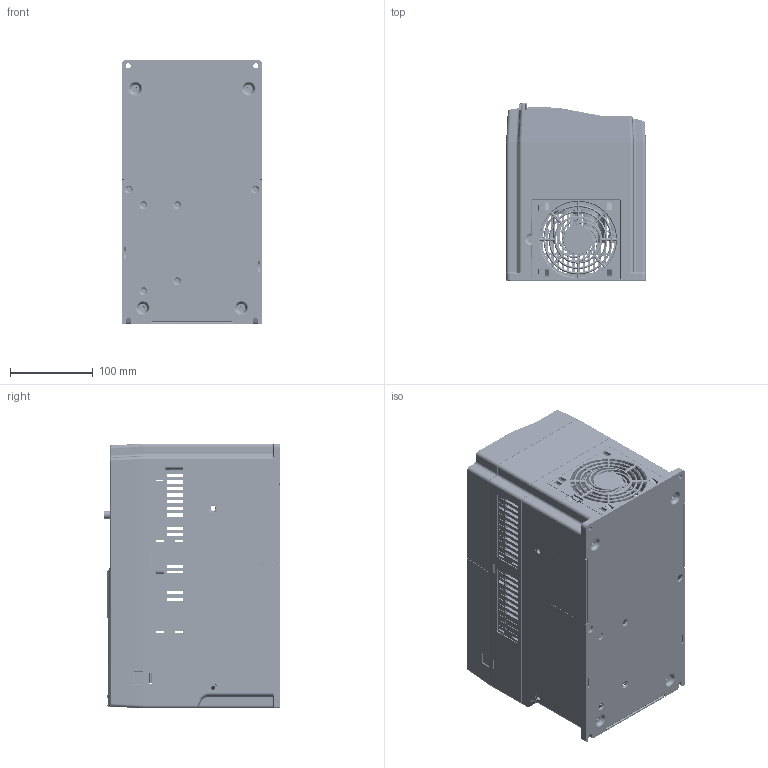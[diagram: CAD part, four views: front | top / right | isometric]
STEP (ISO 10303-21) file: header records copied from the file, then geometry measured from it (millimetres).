
FILE_DESCRIPTION((''),'2;1');
FILE_NAME('GD290-018G022P-4_ASM','2025-04-10T09:37:02',('Administrator'),(''),'CREO PARAMETRIC BY PTC INC, 2019080','CREO PARAMETRIC BY PTC INC, 2019080','');
FILE_SCHEMA(('CONFIG_CONTROL_DESIGN'));
Products named in the file (35): 80740319_1; GB809-M5X6A_1; 80740319_ASM_1_ASM; 80740318_1; GB809-M4X6A_1; 80740318_ASM_1_ASM; 80810221_1; 80810222_1; 80810222SY_1; 80810222SY_ASM_1_ASM; 80880695_1; 80880695_ASM_1_ASM; 80310651_1; TPR-3-8-SL_1; 80310651_ASM_1_ASM; TB1700-1_72_1; TB1700-2_44_1; TB1450-00-5_4_1; TB1450-00-C-1_1_1; TB1450-00-C-2_1_1; TB1450-00-C-3_8_1; TB1450-00-C_ASM_1_ASM_1_ASM; TB1700-3_13_1; _TB1700_ASM_25_1; TB1700_ASM_25_22KW_270_ASM_1_ASM; 17003-04555-3D_A_1; 17003-04555-3D_A_ASM_1_ASM; 17003-04555-3D_DR_ASM_1_ASM; 80780080_1; 88170501_1; 88190921_1; GD270-022-4-ES_ASM_1_ASM; 80740127_1; GD270-022-4_ASM_1_ASM; GD290-018G022P-4_ASM
Assembly tree (62 placements, depth 7):
  GD290-018G022P-4_ASM
    GD270-022-4_ASM_1_ASM
      80740319_ASM_1_ASM
        80740319_1
        GB809-M5X6A_1  x2
      80740318_ASM_1_ASM
        80740318_1
        GB809-M4X6A_1  x2
      80810221_1
      80810222SY_ASM_1_ASM
        80810222_1
        80810222SY_1
      80880695_ASM_1_ASM
        80880695_1
        GB809-M4X6A_1
      80310651_ASM_1_ASM
        80310651_1
        TPR-3-8-SL_1  x2
      GD270-022-4-ES_ASM_1_ASM
        17003-04555-3D_DR_ASM_1_ASM
          TB1700_ASM_25_22KW_270_ASM_1_ASM
            TB1700-1_72_1
            TB1700-2_44_1  x9
            TB1450-00-5_4_1  x9
            TB1450-00-C_ASM_1_ASM_1_ASM  x9
              TB1450-00-C-1_1_1
              TB1450-00-C-2_1_1
              TB1450-00-C-3_8_1
            TB1700-3_13_1
            _TB1700_ASM_25_1
          17003-04555-3D_A_ASM_1_ASM
            17003-04555-3D_A_1
        80780080_1
        88170501_1
        88190921_1
      80740127_1
Bounding box: 169 x 213.85 x 320 mm (x, y, z)
Volume: 1155874.2 mm3; surface area: 1216776.9 mm2
Topology: 65 solids, 65 shells, 14257 faces, 40648 edges, 26605 vertices
Faces by surface type: plane 7827, cylinder 4044, torus 935, bspline 716, cone 629, extrusion 75, sphere 30, revolution 1
Entity records: 390212 total; most frequent: CARTESIAN_POINT 97480, ORIENTED_EDGE 62916, DIRECTION 59294, EDGE_CURVE 31458, VERTEX_POINT 20583, VECTOR 20449, LINE 20374, AXIS2_PLACEMENT_3D 19422
